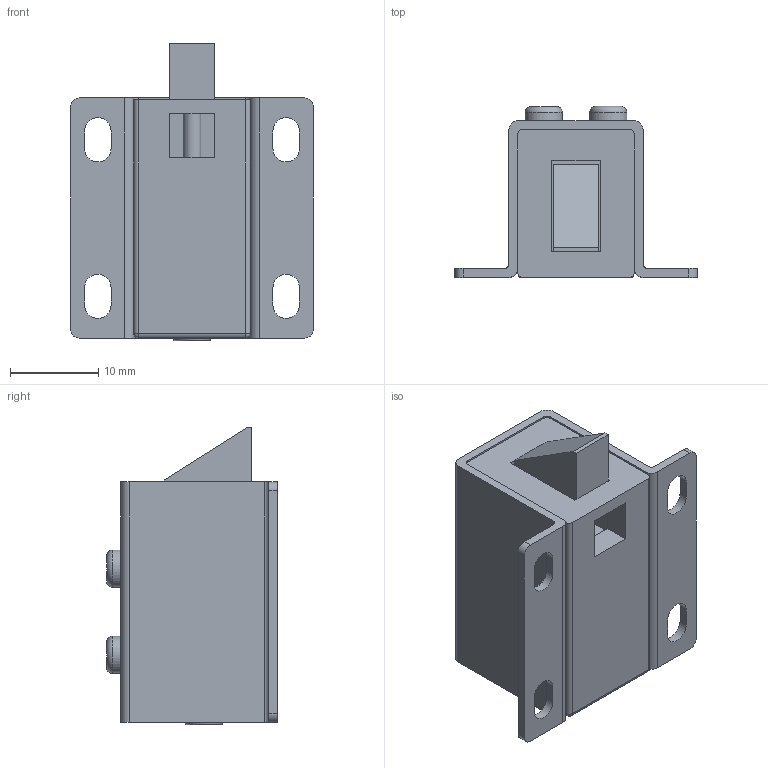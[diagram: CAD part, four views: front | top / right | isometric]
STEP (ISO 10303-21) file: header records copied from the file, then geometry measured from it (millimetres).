
FILE_DESCRIPTION(/* description */ (''),/* implementation_level */ '2;1');
FILE_NAME(/* name */ 'Solenoid_Lock_V3.step',/* time_stamp */ '2024-09-10T11:35:41+01:00',/* author */ (''),/* organization */ (''),/* preprocessor_version */ 'ST-DEVELOPER v20',/* originating_system */ 'Autodesk Translation Framework v13.14.0.145',/* authorisation */ '');
FILE_SCHEMA (('AUTOMOTIVE_DESIGN { 1 0 10303 214 3 1 1 }'));
Length unit declared in the file: millimetre
Products named in the file (4): Solenoid_Lock_V3; electronics compartment; bracket; latch
Assembly tree (3 placements, depth 2):
  Solenoid_Lock_V3
    electronics compartment
    bracket
    latch
Bounding box: 27.51 x 19.37 x 33.7 mm (x, y, z)
Volume: 7259 mm3; surface area: 6076 mm2
Topology: 3 solids, 3 shells, 123 faces, 307 edges, 195 vertices
Faces by surface type: plane 74, cylinder 42, sphere 4, torus 3
Full cylindrical faces by diameter (mm): 2 x2, 2.39 x1, 4.21 x2, 4.22 x1
Entity records: 3794 total; most frequent: DIRECTION 671, CARTESIAN_POINT 632, ORIENTED_EDGE 614, EDGE_CURVE 307, AXIS2_PLACEMENT_3D 234, LINE 203, VECTOR 203, VERTEX_POINT 195
